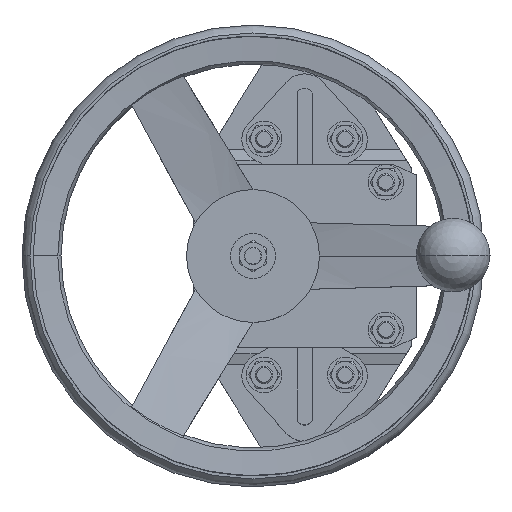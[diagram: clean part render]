
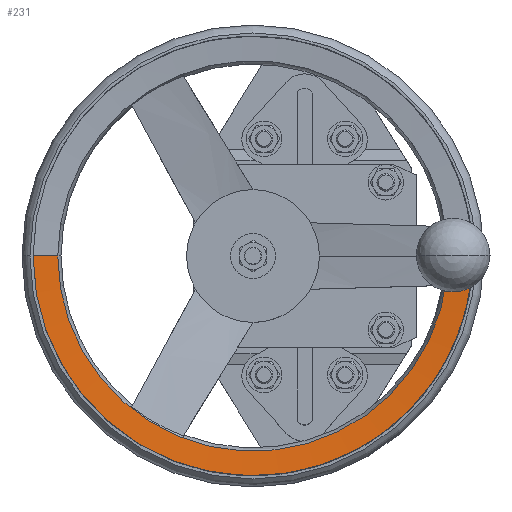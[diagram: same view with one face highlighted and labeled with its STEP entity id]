
A CAD part, top view. The second image highlights one B-rep face of the part: STEP entity #231.
In plain terms, the highlighted conical face has half-angle 85 degrees and reference radius 140.627 mm.
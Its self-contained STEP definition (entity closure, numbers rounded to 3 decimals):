
#231=ADVANCED_FACE('',(#1310),#1311,.F.);
#1310=FACE_OUTER_BOUND('',#3273,.T.);
#1311=CONICAL_SURFACE('',#3274,140.627,1.484);
#3273=EDGE_LOOP('',(#6974,#6975,#6976,#6977,#6978));
#3274=AXIS2_PLACEMENT_3D('',#6979,#6980,#6981);
#6974=ORIENTED_EDGE('',*,*,#14108,.F.);
#6975=ORIENTED_EDGE('',*,*,#14109,.T.);
#6976=ORIENTED_EDGE('',*,*,#14110,.T.);
#6977=ORIENTED_EDGE('',*,*,#14111,.T.);
#6978=ORIENTED_EDGE('',*,*,#14112,.F.);
#6979=CARTESIAN_POINT('',(-35.,0.,630.733));
#6980=DIRECTION('',(0.,0.,1.));
#6981=DIRECTION('',(1.,0.,0.));
#14108=EDGE_CURVE('',#17418,#17405,#17419,.T.);
#14109=EDGE_CURVE('',#17418,#17420,#17421,.T.);
#14110=EDGE_CURVE('',#17420,#17422,#17423,.T.);
#14111=EDGE_CURVE('',#17422,#17424,#17425,.T.);
#14112=EDGE_CURVE('',#17405,#17424,#17426,.T.);
#17405=VERTEX_POINT('',#22501);
#17418=VERTEX_POINT('',#22541);
#17419=LINE('',#22542,#22543);
#17420=VERTEX_POINT('',#22544);
#17421=CIRCLE('',#22545,149.);
#17422=VERTEX_POINT('',#22546);
#17423=(B_SPLINE_CURVE(2,(#22548,#22549,#22550),.UNSPECIFIED.,.F.,.F.)B_SPLINE_CURVE_WITH_KNOTS((3,3),(0.,29.873),.UNSPECIFIED.)RATIONAL_B_SPLINE_CURVE((1.,9.977,1.))BOUNDED_CURVE()REPRESENTATION_ITEM('')GEOMETRIC_REPRESENTATION_ITEM()CURVE());
#17424=VERTEX_POINT('',#22557);
#17425=B_SPLINE_CURVE_WITH_KNOTS('',3,(#22558,#22559,#22560,#22561,#22562,#22563,#22564,#22565,#22566,#22567,#22568,#22569,#22570,#22571,#22572,#22573,#22574,#22575,#22576),.UNSPECIFIED.,.F.,.F.,(4,2,2,2,2,2,2,3,4),(-2.129,-1.826,-1.522,-1.218,-0.913,-0.609,-0.304,0.,0.526),.UNSPECIFIED.);
#17426=CIRCLE('',#22577,132.253);
#22501=CARTESIAN_POINT('',(-167.253,0.,630.));
#22541=CARTESIAN_POINT('',(-184.,0.,631.465));
#22542=CARTESIAN_POINT('',(-175.627,0.,630.733));
#22543=VECTOR('',#30881,1.);
#22544=CARTESIAN_POINT('',(113.243,-15.,631.465));
#22545=AXIS2_PLACEMENT_3D('',#30882,#30883,#30884);
#22546=CARTESIAN_POINT('',(100.,-15.,630.313));
#22548=CARTESIAN_POINT('',(113.897,-15.,631.522));
#22549=CARTESIAN_POINT('',(-35.,-15.,618.561));
#22550=CARTESIAN_POINT('',(-183.897,-15.,631.522));
#22557=CARTESIAN_POINT('',(96.448,-14.573,630.));
#22558=CARTESIAN_POINT('',(114.678,-3.092,631.527));
#22559=CARTESIAN_POINT('',(114.46,-4.126,631.51));
#22560=CARTESIAN_POINT('',(114.129,-5.15,631.484));
#22561=CARTESIAN_POINT('',(113.255,-7.102,631.415));
#22562=CARTESIAN_POINT('',(112.713,-8.031,631.371));
#22563=CARTESIAN_POINT('',(111.462,-9.734,631.271));
#22564=CARTESIAN_POINT('',(110.753,-10.506,631.214));
#22565=CARTESIAN_POINT('',(109.245,-11.856,631.092));
#22566=CARTESIAN_POINT('',(108.397,-12.474,631.022));
#22567=CARTESIAN_POINT('',(106.564,-13.529,630.871));
#22568=CARTESIAN_POINT('',(105.58,-13.965,630.789));
#22569=CARTESIAN_POINT('',(103.543,-14.615,630.617));
#22570=CARTESIAN_POINT('',(102.489,-14.83,630.528));
#22571=CARTESIAN_POINT('',(100.386,-15.032,630.347));
#22572=CARTESIAN_POINT('',(99.338,-15.019,630.256));
#22573=CARTESIAN_POINT('',(98.333,-14.907,630.167));
#22574=CARTESIAN_POINT('',(96.599,-14.713,630.015));
#22575=CARTESIAN_POINT('',(94.776,-14.184,629.851));
#22576=CARTESIAN_POINT('',(93.121,-13.33,629.699));
#22577=AXIS2_PLACEMENT_3D('',#30885,#30886,#30887);
#30881=DIRECTION('',(0.996,0.,-0.087));
#30882=CARTESIAN_POINT('',(-35.,0.,631.465));
#30883=DIRECTION('',(0.,0.,1.));
#30884=DIRECTION('',(1.,0.,0.));
#30885=CARTESIAN_POINT('',(-35.,0.,630.));
#30886=DIRECTION('',(0.,0.,1.));
#30887=DIRECTION('',(1.,0.,0.));
